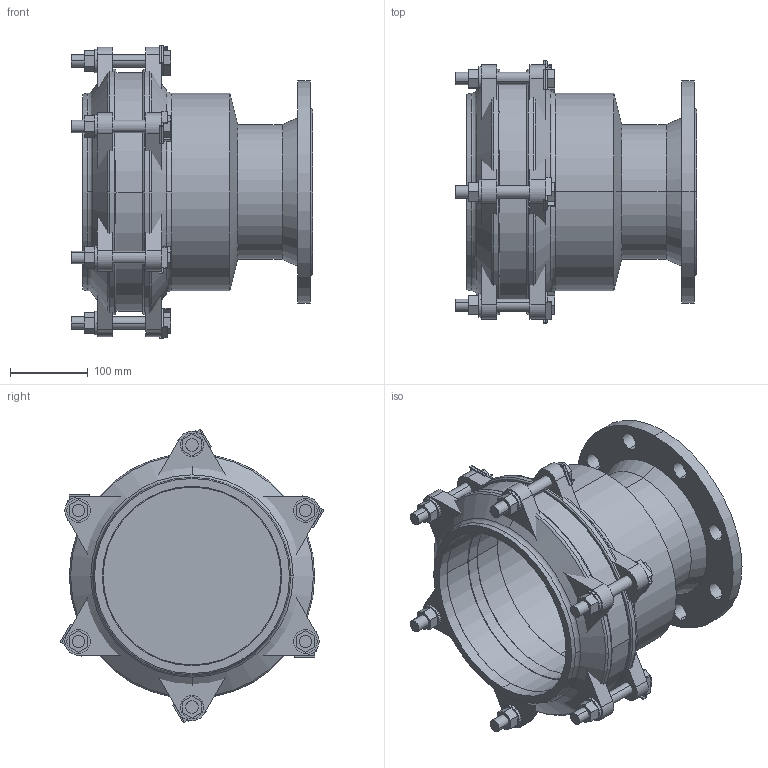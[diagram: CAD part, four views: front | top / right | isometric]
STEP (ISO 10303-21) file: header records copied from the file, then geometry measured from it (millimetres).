
FILE_DESCRIPTION(('STEP AP214'),'1');
FILE_NAME('EM00004956 DN 150-200.STP','2015-01-29T09:27:53',(' '),(' '),'Spatial InterOp 3D',' ',' ');
FILE_SCHEMA(('automotive_design'));
Length unit declared in the file: millimetre
Products named in the file (58): 3D-Objekt
Bounding box: 309 x 337.88 x 376.92 mm (x, y, z)
Volume: 5337339.3 mm3; surface area: 1215125.2 mm2
Topology: 58 solids, 58 shells, 429 faces, 936 edges, 622 vertices
Faces by surface type: plane 295, cylinder 104, cone 18, torus 12
Entity records: 16572 total; most frequent: DIRECTION 2184, CARTESIAN_POINT 2045, ORIENTED_EDGE 1872, EDGE_CURVE 936, AXIS2_PLACEMENT_3D 761, LINE 662, VECTOR 662, VERTEX_POINT 622
